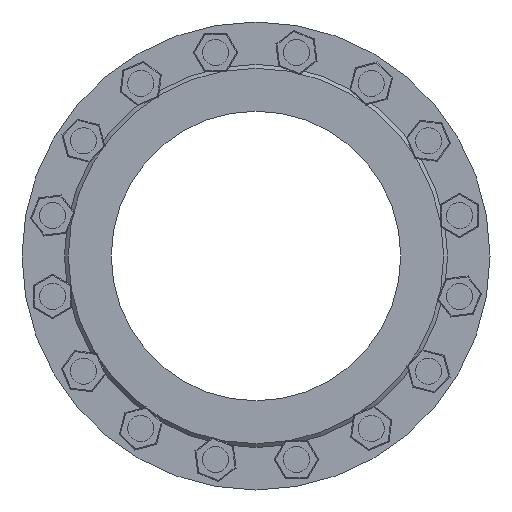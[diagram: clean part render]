
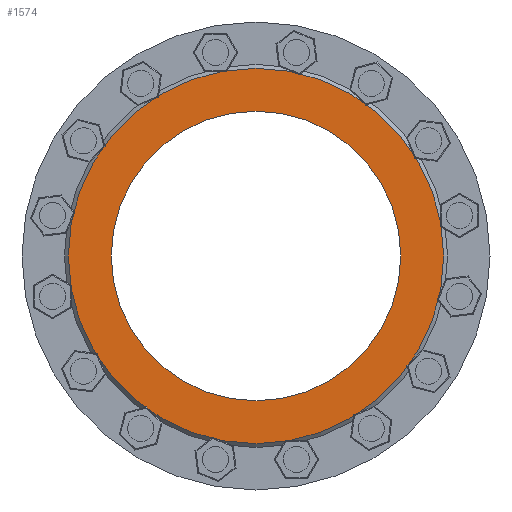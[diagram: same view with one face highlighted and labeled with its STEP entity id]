
A CAD part, left-side view. The second image highlights one B-rep face of the part: STEP entity #1574.
In plain terms, the highlighted planar face has unit normal (-1, 0, 0).
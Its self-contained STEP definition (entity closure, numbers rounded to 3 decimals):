
#1574 = ADVANCED_FACE ( 'NONE', ( #35681, #1730 ), #38441, .F. ) ;
#1730 = FACE_OUTER_BOUND ( 'NONE', #39676, .T. ) ;
#4479 = DIRECTION ( 'NONE',  ( 1., 0., 0. ) ) ;
#5319 = EDGE_CURVE ( 'NONE', #18980, #18980, #14083, .T. ) ;
#7827 = CARTESIAN_POINT ( 'NONE',  ( 0., 0., 194.5 ) ) ;
#8438 = DIRECTION ( 'NONE',  ( 0., 0., 1. ) ) ;
#14083 = CIRCLE ( 'NONE', #24378, 194.5 ) ;
#16532 = ORIENTED_EDGE ( 'NONE', *, *, #5319, .T. ) ;
#16590 = DIRECTION ( 'NONE',  ( -1., 0., 0. ) ) ;
#18980 = VERTEX_POINT ( 'NONE', #7827 ) ;
#21934 = VERTEX_POINT ( 'NONE', #25423 ) ;
#22851 = AXIS2_PLACEMENT_3D ( 'NONE', #31770, #27594, #31297 ) ;
#24378 = AXIS2_PLACEMENT_3D ( 'NONE', #31705, #16590, #8438 ) ;
#25423 = CARTESIAN_POINT ( 'NONE',  ( 0., 0., 150. ) ) ;
#25605 = ORIENTED_EDGE ( 'NONE', *, *, #41442, .F. ) ;
#27594 = DIRECTION ( 'NONE',  ( -1., 0., 0. ) ) ;
#27613 = CIRCLE ( 'NONE', #22851, 150. ) ;
#28101 = EDGE_LOOP ( 'NONE', ( #25605 ) ) ;
#28271 = DIRECTION ( 'NONE',  ( 0., 0., -1. ) ) ;
#28831 = AXIS2_PLACEMENT_3D ( 'NONE', #47095, #4479, #28271 ) ;
#31297 = DIRECTION ( 'NONE',  ( 0., 0., 1. ) ) ;
#31705 = CARTESIAN_POINT ( 'NONE',  ( 0., 0., 0. ) ) ;
#31770 = CARTESIAN_POINT ( 'NONE',  ( 0., 0., 0. ) ) ;
#35681 = FACE_BOUND ( 'NONE', #28101, .T. ) ;
#38441 = PLANE ( 'NONE',  #28831 ) ;
#39676 = EDGE_LOOP ( 'NONE', ( #16532 ) ) ;
#41442 = EDGE_CURVE ( 'NONE', #21934, #21934, #27613, .T. ) ;
#47095 = CARTESIAN_POINT ( 'NONE',  ( 0., 0., 0. ) ) ;
